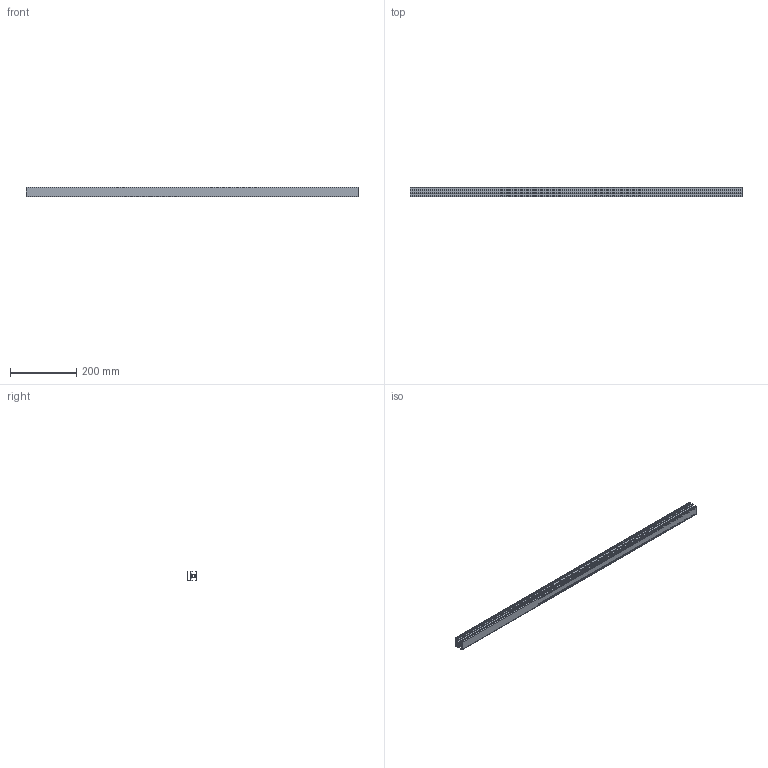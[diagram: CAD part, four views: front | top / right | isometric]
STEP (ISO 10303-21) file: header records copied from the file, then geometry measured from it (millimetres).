
FILE_DESCRIPTION (( 'STEP AP203' ), '1' );
FILE_NAME ('18154_PRO_30x30_END.STEP', '2016-03-02T15:04:33', ( '' ), ( '' ), 'SwSTEP 2.0', 'SolidWorks 2015', '' );
FILE_SCHEMA (( 'CONFIG_CONTROL_DESIGN' ));
Length unit declared in the file: millimetre
Products named in the file (1): 18154_PRO_30x30_END
Bounding box: 1000 x 30 x 30 mm (x, y, z)
Volume: 312558.4 mm3; surface area: 345492.4 mm2
Topology: 1 solids, 1 shells, 202 faces, 600 edges, 400 vertices
Faces by surface type: plane 116, cylinder 86
Entity records: 6885 total; most frequent: CARTESIAN_POINT 1203, ORIENTED_EDGE 1200, DIRECTION 1178, EDGE_CURVE 600, VECTOR 428, LINE 428, VERTEX_POINT 400, AXIS2_PLACEMENT_3D 375
